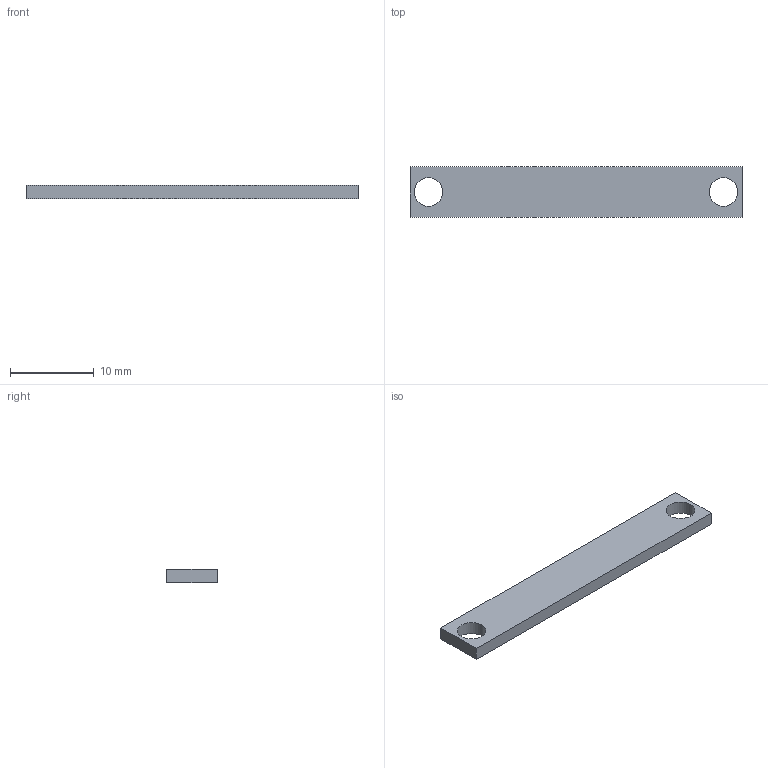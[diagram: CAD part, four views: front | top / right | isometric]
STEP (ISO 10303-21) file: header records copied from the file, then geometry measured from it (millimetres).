
FILE_DESCRIPTION(('FreeCAD Model'),'2;1');
FILE_NAME('Open CASCADE Shape Model','2026-11-20T08:25:38',('FreeCAD'),( 'FreeCAD'),'Open CASCADE STEP processor 7.8','FreeCAD','Unknown');
FILE_SCHEMA(('AUTOMOTIVE_DESIGN { 1 0 10303 214 1 1 1 1 }'));
Length unit declared in the file: millimetre
Products named in the file (1): Open CASCADE STEP translator 7.8 41
Bounding box: 39.6 x 6 x 1.6 mm (x, y, z)
Volume: 351.1 mm3; surface area: 619 mm2
Topology: 1 solids, 1 shells, 8 faces, 18 edges, 12 vertices
Faces by surface type: plane 6, cylinder 2
Full cylindrical faces by diameter (mm): 3.4 x2
Entity records: 244 total; most frequent: DIRECTION 40, CARTESIAN_POINT 39, ORIENTED_EDGE 36, EDGE_CURVE 18, LINE 14, VECTOR 14, AXIS2_PLACEMENT_3D 13, FACE_BOUND 12
